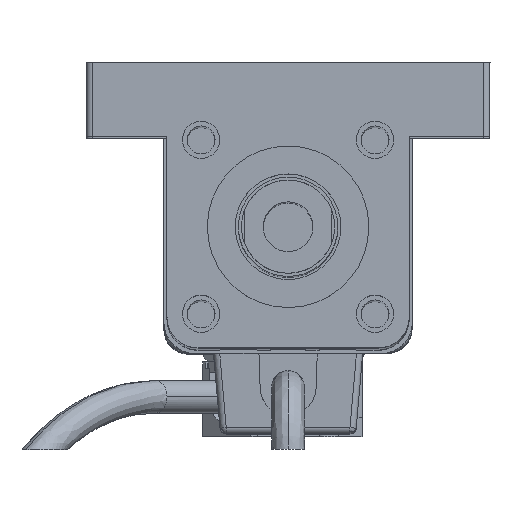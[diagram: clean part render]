
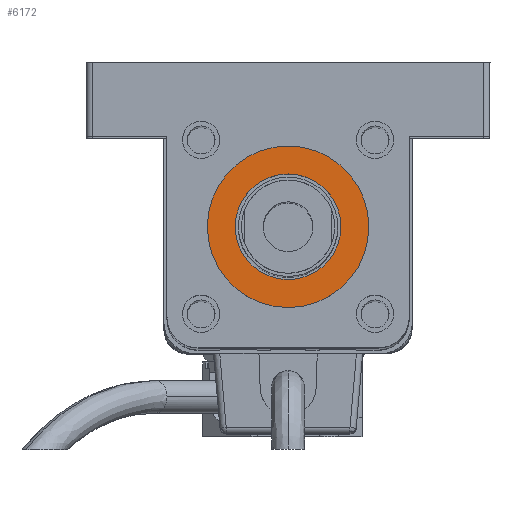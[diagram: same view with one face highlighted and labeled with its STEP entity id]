
A CAD part, top view. The second image highlights one B-rep face of the part: STEP entity #6172.
In plain terms, the highlighted planar face has unit normal (0, 0, 1) as drawn and (0, 0, -1) by its records, which use the part's own axes.
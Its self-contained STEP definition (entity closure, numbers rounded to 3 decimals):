
#121 = DIRECTION ( 'NONE',  ( 0., 0., -1. ) ) ;
#431 = PLANE ( 'NONE',  #944 ) ;
#686 = CARTESIAN_POINT ( 'NONE',  ( 19.5, -19.5, -3. ) ) ;
#944 = AXIS2_PLACEMENT_3D ( 'NONE', #11515, #121, #22436 ) ;
#2529 = ORIENTED_EDGE ( 'NONE', *, *, #9815, .F. ) ;
#2889 = ORIENTED_EDGE ( 'NONE', *, *, #13814, .F. ) ;
#3007 = VERTEX_POINT ( 'NONE', #12075 ) ;
#3201 = VERTEX_POINT ( 'NONE', #21433 ) ;
#4169 = VERTEX_POINT ( 'NONE', #24168 ) ;
#4753 = AXIS2_PLACEMENT_3D ( 'NONE', #21632, #8106, #24182 ) ;
#5269 = DIRECTION ( 'NONE',  ( 0., 0., -1. ) ) ;
#5693 = EDGE_CURVE ( 'NONE', #3007, #22566, #24800, .T. ) ;
#6172 = ADVANCED_FACE ( 'NONE', ( #23373, #21610 ), #431, .T. ) ;
#6200 = CIRCLE ( 'NONE', #4753, 8.5 ) ;
#6713 = CARTESIAN_POINT ( 'NONE',  ( 32.5, -19.5, -3. ) ) ;
#8106 = DIRECTION ( 'NONE',  ( 0., 0., -1. ) ) ;
#8742 = CARTESIAN_POINT ( 'NONE',  ( 19.5, -19.5, -3. ) ) ;
#9149 = AXIS2_PLACEMENT_3D ( 'NONE', #11325, #27254, #13591 ) ;
#9815 = EDGE_CURVE ( 'NONE', #3201, #4169, #6200, .T. ) ;
#11030 = DIRECTION ( 'NONE',  ( -1., 0., 0. ) ) ;
#11325 = CARTESIAN_POINT ( 'NONE',  ( 19.5, -19.5, -3. ) ) ;
#11328 = DIRECTION ( 'NONE',  ( 0., 0., -1. ) ) ;
#11515 = CARTESIAN_POINT ( 'NONE',  ( 19.5, -19.5, -3. ) ) ;
#12075 = CARTESIAN_POINT ( 'NONE',  ( 6.5, -19.5, -3. ) ) ;
#12367 = AXIS2_PLACEMENT_3D ( 'NONE', #686, #5269, #14229 ) ;
#12500 = EDGE_LOOP ( 'NONE', ( #2529, #2889 ) ) ;
#13591 = DIRECTION ( 'NONE',  ( -1., 0., 0. ) ) ;
#13814 = EDGE_CURVE ( 'NONE', #4169, #3201, #15560, .T. ) ;
#14045 = AXIS2_PLACEMENT_3D ( 'NONE', #8742, #11328, #11030 ) ;
#14229 = DIRECTION ( 'NONE',  ( -1., 0., 0. ) ) ;
#15560 = CIRCLE ( 'NONE', #14045, 8.5 ) ;
#20174 = ORIENTED_EDGE ( 'NONE', *, *, #21509, .T. ) ;
#20298 = ORIENTED_EDGE ( 'NONE', *, *, #5693, .T. ) ;
#21389 = CIRCLE ( 'NONE', #12367, 13. ) ;
#21433 = CARTESIAN_POINT ( 'NONE',  ( 11., -19.5, -3. ) ) ;
#21509 = EDGE_CURVE ( 'NONE', #22566, #3007, #21389, .T. ) ;
#21610 = FACE_OUTER_BOUND ( 'NONE', #27322, .T. ) ;
#21632 = CARTESIAN_POINT ( 'NONE',  ( 19.5, -19.5, -3. ) ) ;
#22436 = DIRECTION ( 'NONE',  ( -1., 0., 0. ) ) ;
#22566 = VERTEX_POINT ( 'NONE', #6713 ) ;
#23373 = FACE_BOUND ( 'NONE', #12500, .T. ) ;
#24168 = CARTESIAN_POINT ( 'NONE',  ( 28., -19.5, -3. ) ) ;
#24182 = DIRECTION ( 'NONE',  ( -1., 0., 0. ) ) ;
#24800 = CIRCLE ( 'NONE', #9149, 13. ) ;
#27254 = DIRECTION ( 'NONE',  ( 0., 0., -1. ) ) ;
#27322 = EDGE_LOOP ( 'NONE', ( #20174, #20298 ) ) ;
